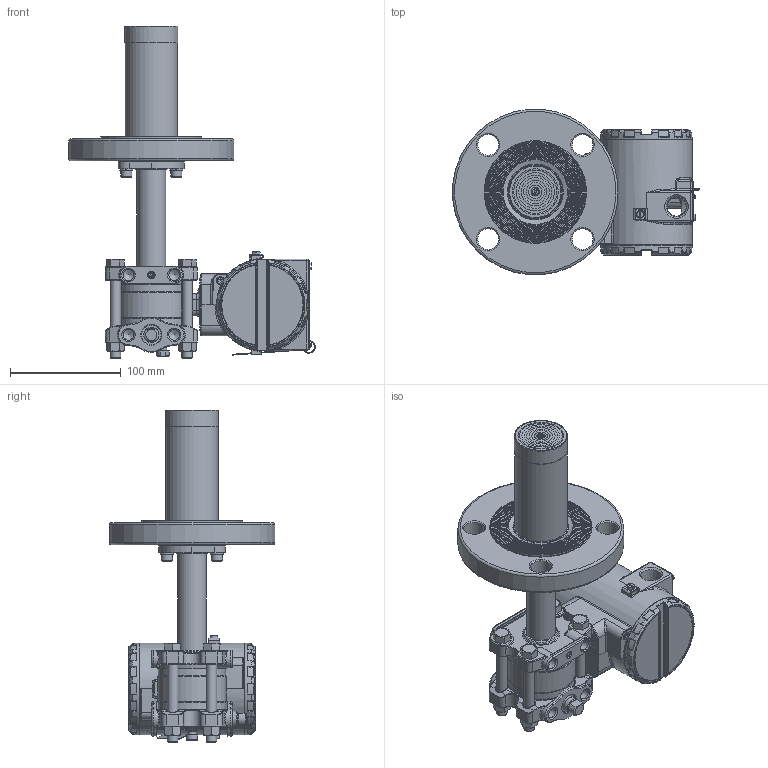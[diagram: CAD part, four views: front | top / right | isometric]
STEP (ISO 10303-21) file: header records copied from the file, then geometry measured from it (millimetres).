
FILE_DESCRIPTION(/* description */ (''),/* implementation_level */ '2;1');
FILE_NAME(/* name */ 'F:\Area\Desenvolvimento_2\Projects\Sensor\projetos\LD30X\montagens 3d - clientes\SELO NIVEL\LD30XL 2-150 RF ext 100 ref 1-4NPT purga acima.stp',/* time_stamp */ '2023-02-10T15:42:07-03:00',/* author */ ('inventor02'),/* organization */ (''),/* preprocessor_version */ 'ST-DEVELOPER v17',/* originating_system */ 'Autodesk Inventor 2019',/* authorisation */ '');
FILE_SCHEMA (('CONFIG_CONTROL_DESIGN'));
Products named in the file (41): LD30XL 2-150 RF ext 100 ref 1-4NPT purga acima; 204-0301-L-2 150 RF ext 100 purga acima; nivel fx3 com baixa diferencial 1-4NPT purga acima; involucro fx0-3 apos a usinagem final; flange diferencial std purga; 101-C-7484-01 flange selo nivel VR; 201-A-0504-tubo união teste 1; bujao 1-4NPT; Sangria; Porca 3-8 x 16 UNC; Paraf. 3-8 x 16 UNC; adaptação tubo x flanges 1-1-2 a 4pol; 101-B-0161-anel cortado do tubo - teste1; 101-B-0162-flange fixação tubo; ANSI B18.3.1M - M6x1 x 16; DIN 127 - A 6; flange 2 150 ext 100; 101-C-0108-10; 101-B-7700-01-100; 101-B-0168-11; carcaça vazia com tampas e plaqueta; carcaça LD inox sem letras; Subconjunto plaqueta 300; Plaqueta transmissor; Parafuso da Plaqueta; Rebite da Plaqueta; 096-A-0169-03; 101-A-0502-01; Chapa aterramento externo; ISO 1207 - M4 x 8; DIN 915 - M6 x 10; ANSI B18.3.1M - M4x0,7 x 8; Subconjunto tampa com visor aluminio; tampa pintada; VIDRO DO VISOR; oring 41x1 vidro tampa; Trava do vidro da tampa com visor; trava do vidro VH256; Subconjunto tampa sem visor-aluminio; tampa cega 300 pintada p0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
Assembly tree (51 placements, depth 4):
  LD30XL 2-150 RF ext 100 ref 1-4NPT purga acima
    204-0301-L-2 150 RF ext 100 purga acima
      nivel fx3 com baixa diferencial 1-4NPT purga acima
        involucro fx0-3 apos a usinagem final
        flange diferencial std purga
        101-C-7484-01 flange selo nivel VR
        201-A-0504-tubo união teste 1
        DIN 915 - M6 x 10
        bujao 1-4NPT
        Sangria
        Porca 3-8 x 16 UNC  x4
        Paraf. 3-8 x 16 UNC  x4
      adaptação tubo x flanges 1-1-2 a 4pol
        101-B-0161-anel cortado do tubo - teste1
        101-B-0162-flange fixação tubo
        ANSI B18.3.1M - M6x1 x 16  x2
        DIN 127 - A 6  x2
      flange 2 150 ext 100
        101-C-0108-10
        101-B-7700-01-100
        101-B-0168-11
    carcaça vazia com tampas e plaqueta
      carcaça LD inox sem letras
      Subconjunto plaqueta 300
        Plaqueta transmissor
        Parafuso da Plaqueta
        Rebite da Plaqueta
        096-A-0169-03
        101-A-0502-01
      Chapa aterramento externo
      ISO 1207 - M4 x 8
      DIN 915 - M6 x 10
      ANSI B18.3.1M - M4x0,7 x 8  x2
      Subconjunto tampa com visor aluminio
        tampa pintada
        VIDRO DO VISOR
        oring 41x1 vidro tampa
        Trava do vidro da tampa com visor
        trava do vidro VH256
        00034775-0
      Subconjunto tampa sem visor-aluminio
        tampa cega 300 pintada p0
        00034775-0
Bounding box: 223 x 149.43 x 300.3 mm (x, y, z)
Volume: 1002857.8 mm3; surface area: 335182.4 mm2
Topology: 43 solids, 43 shells, 2744 faces, 6563 edges, 3884 vertices
Faces by surface type: bspline 666, cylinder 656, plane 569, torus 479, cone 248, sphere 126
Full cylindrical faces by diameter (mm): 2 x4, 2.1 x2, 2.459 x5, 2.5 x1, 2.642 x1, 2.7 x1, 2.8 x1, 3 x4, 3.242 x4, 3.5 x5, 3.571 x1, 4 x5, 4.3 x1, 4.4 x1, 4.917 x4, 5 x1, 5.5 x3, 6 x6, 6.647 x1, 7 x7, 7.087 x2, 7.6 x2, 7.798 x4, 8 x1, 8.7 x2, 9.525 x4, 9.728 x6, 10 x2, 10.5 x8, 10.719 x2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
Entity records: 94675 total; most frequent: CARTESIAN_POINT 34640, DIRECTION 12393, ORIENTED_EDGE 12306, EDGE_CURVE 6153, AXIS2_PLACEMENT_3D 5475, VERTEX_POINT 3690, CIRCLE 3241, EDGE_LOOP 2793
